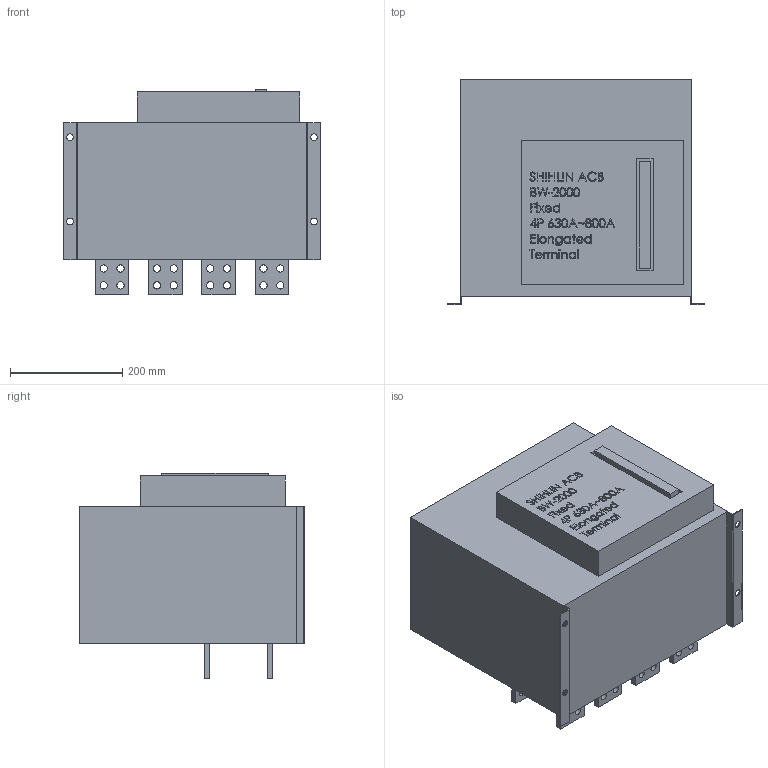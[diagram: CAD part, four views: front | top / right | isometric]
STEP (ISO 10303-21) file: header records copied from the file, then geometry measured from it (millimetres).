
FILE_DESCRIPTION (( 'STEP AP203' ), '1' );
FILE_NAME ('BW-2000-Fixed-4P-630-800A-Elongated Terminal.STEP', '2020-04-09T10:58:14', ( '' ), ( '' ), 'SwSTEP 2.0', 'SolidWorks 2017', '' );
FILE_SCHEMA (( 'CONFIG_CONTROL_DESIGN' ));
Length unit declared in the file: millimetre
Products named in the file (1): BW-2000-Fixed-4P-630-800A-Elongated Terminal
Bounding box: 457 x 402 x 367 mm (x, y, z)
Volume: 43469079.5 mm3; surface area: 924167.6 mm2
Topology: 3 solids, 3 shells, 800 faces, 2112 edges, 1408 vertices
Faces by surface type: plane 448, bspline 278, cylinder 74
Entity records: 40013 total; most frequent: CARTESIAN_POINT 21719, ORIENTED_EDGE 4224, DIRECTION 2750, EDGE_CURVE 2112, VECTOR 1408, VERTEX_POINT 1408, LINE 1408, EDGE_LOOP 962
